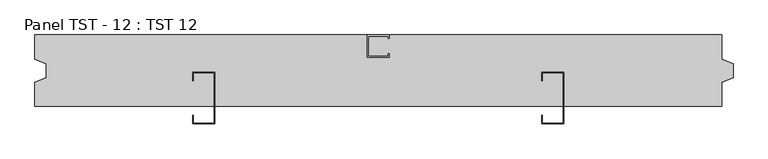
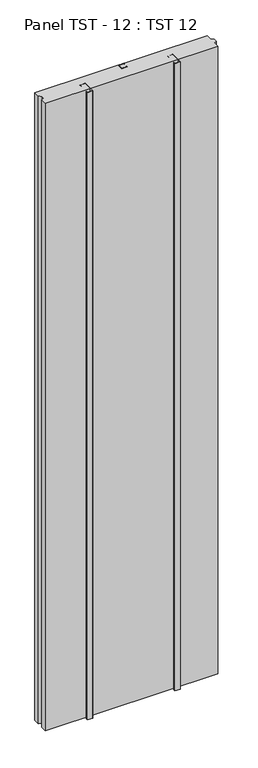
"""IFC4 building model written with IfcOpenShell, lengths in millimetres: plate geometry, Panel TST - 12 : TST 12."""

from ifc_helpers import new_model, si_unit, origin, origin_with_axes, place, context, project, spatial, polyline, outline, extrude, source, transform, mapped, element, save


def panel_tst_12_tst_12_1e5a2f26(model_context):
    return source(origin(), model_context, "Body", "SweptSolid", [
        extrude(outline(polyline([(-19.5, 62.5), (19.5, 62.5), (19.5, 56.5), (17.5, 56.5), (17.5, 60.5), (-17.5, 60.5), (-17.5, 25.5), (17.5, 25.5), (17.5, 29.5), (19.5, 29.5), (19.5, 23.5), (-19.5, 23.5), (-19.5, 62.5)])), origin_with_axes(), (0.0, 0.0, 1.0), 4618.8021535),
        extrude(outline(polyline([(-324.0000002, -2.5), (-286.0000002, -2.5), (-286.0000002, -92.5), (-324.0000002, -92.5), (-324.0000002, -77.5), (-323.1500002, -77.5), (-323.1500002, -91.65), (-286.8500002, -91.65), (-286.8500002, -3.35), (-323.1500002, -3.35), (-323.1500002, -17.5), (-324.0000002, -17.5), (-324.0000002, -2.5)])), origin_with_axes(), (0.0, 0.0, 1.0), 4618.8021535),
        extrude(outline(polyline([(286.0000002, -2.5), (324.0000002, -2.5), (324.0000002, -92.5), (286.0000002, -92.5), (286.0000002, -77.5), (286.8500002, -77.5), (286.8500002, -91.65), (323.1500002, -91.65), (323.1500002, -3.35), (286.8500002, -3.35), (286.8500002, -17.5), (286.0000002, -17.5), (286.0000002, -2.5)])), origin_with_axes(), (0.0, 0.0, 1.0), 4618.8021535),
        extrude(outline(polyline([(-600.0000002, 62.5), (600.0000002, 62.5), (600.0000002, 20.0010038), (620.0000002, 12.5), (620.0000002, -12.5), (600.0000002, -20.0010038), (600.0000002, -62.5), (-600.0000002, -62.5), (-600.0000002, -20.0010038), (-580.0000002, -12.5), (-580.0000002, 12.5), (-600.0000002, 20.0010038), (-600.0000002, 62.5)])), origin_with_axes(), (0.0, 0.0, 1.0), 4618.8021535),
    ])


if __name__ == "__main__":
    model = new_model("IFC4")
    model_context = context("Model", 3, world=origin())
    ifc_project = project(units=[si_unit("LENGTHUNIT", "METRE", prefix="MILLI")], contexts=[model_context])
    site = spatial("IfcSite", under=ifc_project)
    building = spatial("IfcBuilding", under=site)
    placement = place(None, origin())
    panel_tst_12_tst_12_shape = panel_tst_12_tst_12_1e5a2f26(model_context)
    element("IfcPlate", 1, ObjectType="Panel TST - 12 : TST 12", at=placement, inside=building, context=model_context, shape_type="MappedRepresentation", body=[
        mapped(panel_tst_12_tst_12_shape, transform((0.0, 0.0, 0.0), x_axis=(1.0, 0.0, 0.0), y_axis=(0.0, 1.0, 0.0), z_axis=(0.0, 0.0, 1.0))),
    ])
    save(model, "model.ifc")
